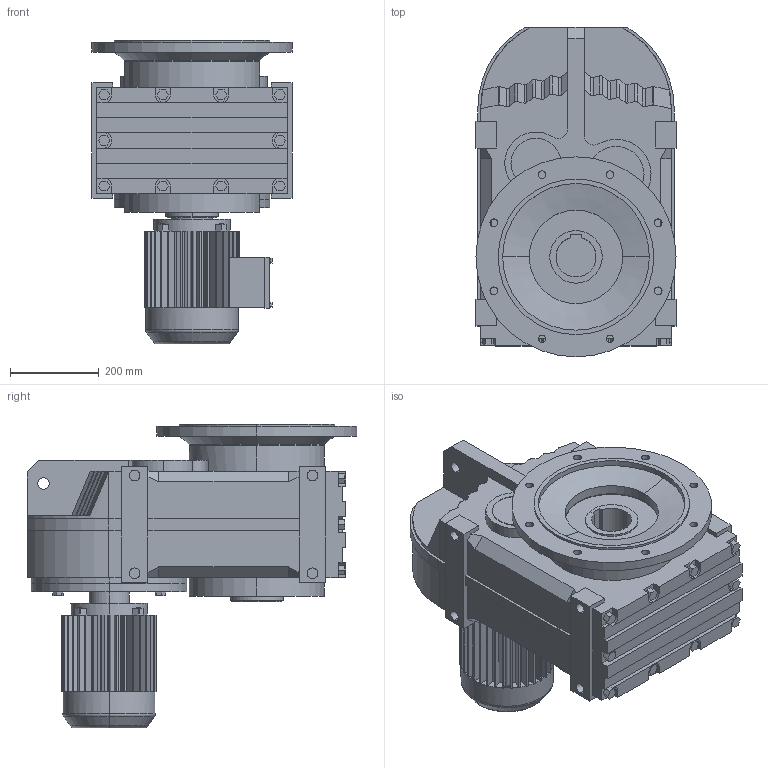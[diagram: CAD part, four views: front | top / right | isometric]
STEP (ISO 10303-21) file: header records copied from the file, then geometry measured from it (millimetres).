
FILE_DESCRIPTION(('Open CASCADE Model'),'2;1');
FILE_NAME('Open CASCADE Shape Model','2021-07-20T10:12:38',('Author'),( 'Open CASCADE'),'Open CASCADE STEP processor 6.3','Open CASCADE 6.3' ,'Unknown');
FILE_SCHEMA(('AUTOMOTIVE_DESIGN_CC2 { 1 2 10303 214 -1 1 5 4 }'));
Length unit declared in the file: millimetre
Products named in the file (5): 1_FAF107-Y100M; FA27‵157_107.step; 萇儂_350_Y100M.step; す瑩諾陑粣F_107.step; 楊擘F_107.step
Assembly tree (4 placements, depth 2):
  1_FAF107-Y100M
    FA27‵157_107.step
    萇儂_350_Y100M.step
    す瑩諾陑粣F_107.step
    楊擘F_107.step
Bounding box: 450 x 742 x 683 mm (x, y, z)
Volume: 87819887.2 mm3; surface area: 2749939.1 mm2
Topology: 4 solids, 4 shells, 806 faces, 2125 edges, 1384 vertices
Faces by surface type: plane 562, cylinder 218, bspline 16, cone 6, torus 4
Entity records: 54184 total; most frequent: CARTESIAN_POINT 13522, DIRECTION 7081, ORIENTED_EDGE 4250, PCURVE 4250, DEFINITIONAL_REPRESENTATION 4250, LINE 3921, VECTOR 3921, EDGE_CURVE 2125
